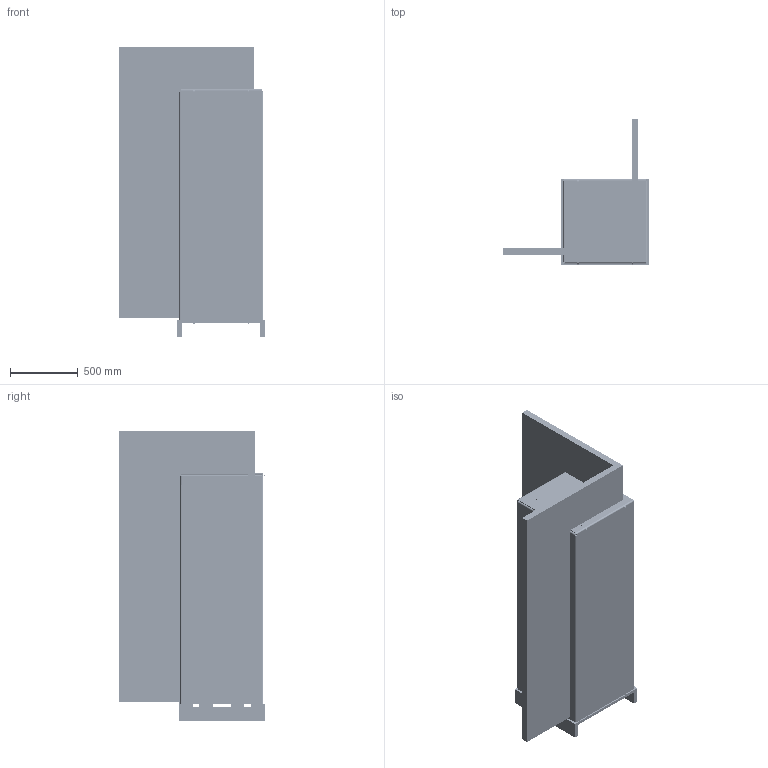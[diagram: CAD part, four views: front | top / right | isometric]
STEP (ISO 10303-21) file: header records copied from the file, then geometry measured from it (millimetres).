
FILE_DESCRIPTION(/* description */ ('Unknown'),/* implementation_level */ '2;1');
FILE_NAME(/* name */ 'Ci400 Hö 2026-08-10',/* time_stamp */ '2026-08-10T15:55:13+02:00',/* author */ ('Unknown'),/* organization */ ('Unknown'),/* preprocessor_version */ 'ST-DEVELOPER v20',/* originating_system */ 'Solid Edge',/* authorisation */ 'Unknown');
FILE_SCHEMA (('AUTOMOTIVE_DESIGN {1 0 10303 214 3 1 1}'));
Products named in the file (297): DSN1136010; RREAyoWaocbu2A_DSN1125255; DSN1125170; hwBAysPZocbu2A_DSN1128149; DSN1125189; DSN1125253; DSN1135956; DSN1087734; DSN1130404; DSN1089377; DSN1104774_oa_0; DSN1089373; DSN1099386; DSN1089374_oa_1; DSN1089386; DSN1074449; DSN1089387; DSN1123089_oa_2; DSN1089428; DSN1083847; FilletWeld_3; xBIAyo2oocbu2A_DSN1089429; FilletWeld_1; DSN1023399; DSN1083862; DSN1067626; FilletWeld_4; FilletWeld_5; DSN1121543; 416213 Blindnitmutter Sluten M10; DSN1121540; DSN1121542; DSN1121560; 016710 Skruv M6SF TT M6x16 fzb; 803700 Ställbar fot M10 kort; ExtrudedProtrusion_1; DSN1125092; ExtrudedProtrusion_2; ExtrudedProtrusion_3; FilletWeld_2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
Assembly tree (485 placements, depth 7):
  DSN1136010
    RREAyoWaocbu2A_DSN1125255
      DSN1125170
      hwBAysPZocbu2A_DSN1128149
      DSN1125189
      DSN1125253
    DSN1135956
      DSN1087734
        DSN1130404
          DSN1089377
            DSN1104774_oa_0
            DSN1089373
            DSN1099386
            DSN1089374_oa_1
            DSN1089386
            DSN1074449  x2
            DSN1089387
            DSN1123089_oa_2
            DSN1089428
            DSN1083847
            FilletWeld_3
            xBIAyo2oocbu2A_DSN1089429
            FilletWeld_1
            DSN1023399  x2
            DSN1083862
            DSN1067626
            FilletWeld_4
            FilletWeld_5
            DSN1121543
              416213 Blindnitmutter Sluten M10  x4
              DSN1121540
              DSN1121542
              DSN1121560
              016710 Skruv M6SF TT M6x16 fzb  x4
              FilletWeld_1
              803700 Ställbar fot M10 kort  x4
              ExtrudedProtrusion_1
              DSN1125092  x2
              ExtrudedProtrusion_2
              ExtrudedProtrusion_3
              FilletWeld_2
            FilletWeld_6
            FilletWeld_9
            FilletWeld_12
            FilletWeld_17
            FilletWeld_23
            GrooveWeld_1
            GrooveWeld_2
            DSN1121563
            GrooveWeld_4
            FilletWeld_25
            FilletWeld_26
            GrooveWeld_10
            FilletWeld_30
            GrooveWeld_18
            GrooveWeld_17
            GrooveWeld_16
            GrooveWeld_15
            GrooveWeld_14
            GrooveWeld_19
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Bounding box: 1080.5 x 1071 x 2140 mm (x, y, z)
Volume: 246645752.2 mm3; surface area: 29807127 mm2
Topology: 568 solids, 569 shells, 19071 faces, 47124 edges, 29019 vertices
Faces by surface type: plane 8884, cylinder 5451, bspline 1939, torus 1267, cone 1071, sphere 459
Full cylindrical faces by diameter (mm): 1.5 x2, 2.8 x16, 3.242 x6, 3.291 x60, 3.3 x8, 3.4 x2, 3.5 x28, 3.65 x8, 3.8 x8, 3.9 x6, 4 x82, 4.134 x8, 4.15 x4, 4.2 x56, 4.3 x11, 4.334 x4, 4.5 x29, 4.6 x8, 4.8 x2, 4.917 x26, 5 x57, 5.1 x1, 5.2 x8, 5.3 x2, 5.5 x6, 5.6 x38, 5.7 x1, 5.8 x4, 5.9 x4, 6 x49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
Entity records: 439931 total; most frequent: CARTESIAN_POINT 133291, ORIENTED_EDGE 60968, DIRECTION 60218, EDGE_CURVE 30484, AXIS2_PLACEMENT_3D 21096, VERTEX_POINT 19430, LINE 18026, VECTOR 18026
